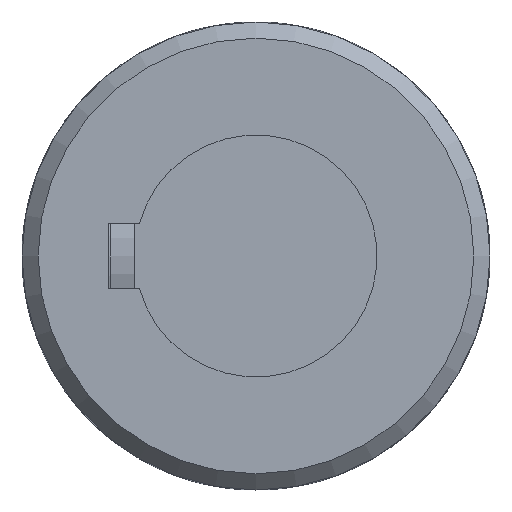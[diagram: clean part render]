
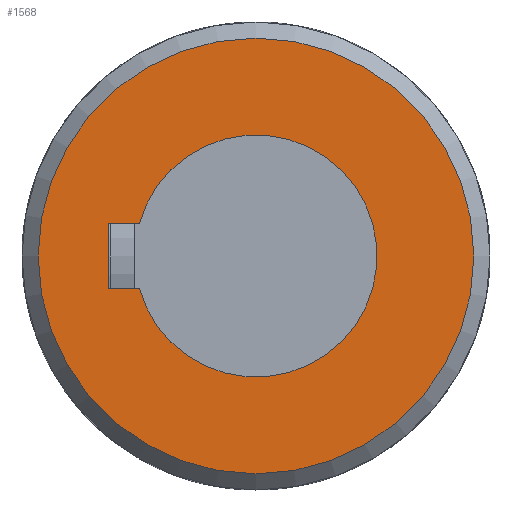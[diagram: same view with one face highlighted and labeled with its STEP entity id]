
A CAD part, front view. The second image highlights one B-rep face of the part: STEP entity #1568.
In plain terms, the highlighted planar face has unit normal (0, -1, 0).
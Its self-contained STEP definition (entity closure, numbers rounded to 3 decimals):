
#110=LINE('',#3027,#167);
#114=LINE('',#3050,#171);
#116=LINE('',#3058,#173);
#167=VECTOR('',#2045,3.843);
#171=VECTOR('',#2057,8.);
#173=VECTOR('',#2061,3.843);
#223=PLANE('',#1727);
#359=FACE_BOUND('',#573,.T.);
#439=FACE_OUTER_BOUND('',#572,.T.);
#572=EDGE_LOOP('',(#1378));
#573=EDGE_LOOP('',(#1379,#1380,#1381,#1382));
#652=CIRCLE('',#1714,15.);
#658=CIRCLE('',#1725,27.);
#783=VERTEX_POINT('',#3024);
#784=VERTEX_POINT('',#3026);
#787=VERTEX_POINT('',#3036);
#789=VERTEX_POINT('',#3048);
#798=VERTEX_POINT('',#3137);
#977=EDGE_CURVE('',#784,#783,#110,.T.);
#981=EDGE_CURVE('',#787,#784,#652,.T.);
#985=EDGE_CURVE('',#783,#789,#114,.T.);
#988=EDGE_CURVE('',#789,#787,#116,.T.);
#998=EDGE_CURVE('',#798,#798,#658,.T.);
#1378=ORIENTED_EDGE('',*,*,#998,.F.);
#1379=ORIENTED_EDGE('',*,*,#977,.T.);
#1380=ORIENTED_EDGE('',*,*,#985,.T.);
#1381=ORIENTED_EDGE('',*,*,#988,.T.);
#1382=ORIENTED_EDGE('',*,*,#981,.T.);
#1568=ADVANCED_FACE('',(#439,#359),#223,.F.);
#1714=AXIS2_PLACEMENT_3D('',#3037,#2051,#2052);
#1725=AXIS2_PLACEMENT_3D('',#3138,#2078,#2079);
#1727=AXIS2_PLACEMENT_3D('',#3346,#2086,#2087);
#2045=DIRECTION('',(0.,0.,-1.));
#2051=DIRECTION('center_axis',(0.,1.,0.));
#2052=DIRECTION('ref_axis',(-0.267,0.,0.964));
#2057=DIRECTION('',(-1.,0.,0.));
#2061=DIRECTION('',(0.,0.,1.));
#2078=DIRECTION('center_axis',(0.,1.,0.));
#2079=DIRECTION('ref_axis',(1.,0.,0.));
#2086=DIRECTION('center_axis',(0.,1.,0.));
#2087=DIRECTION('ref_axis',(0.,0.,1.));
#3024=CARTESIAN_POINT('',(4.,-75.5,-18.3));
#3026=CARTESIAN_POINT('',(4.,-75.5,-14.457));
#3027=CARTESIAN_POINT('',(4.,-75.5,-7.228));
#3036=CARTESIAN_POINT('',(-4.,-75.5,-14.457));
#3037=CARTESIAN_POINT('Origin',(0.,-75.5,0.));
#3048=CARTESIAN_POINT('',(-4.,-75.5,-18.3));
#3050=CARTESIAN_POINT('',(2.,-75.5,-18.3));
#3058=CARTESIAN_POINT('',(-4.,-75.5,-9.15));
#3137=CARTESIAN_POINT('',(-27.,-75.5,0.));
#3138=CARTESIAN_POINT('Origin',(0.,-75.5,0.));
#3346=CARTESIAN_POINT('Origin',(0.,-75.5,0.));
